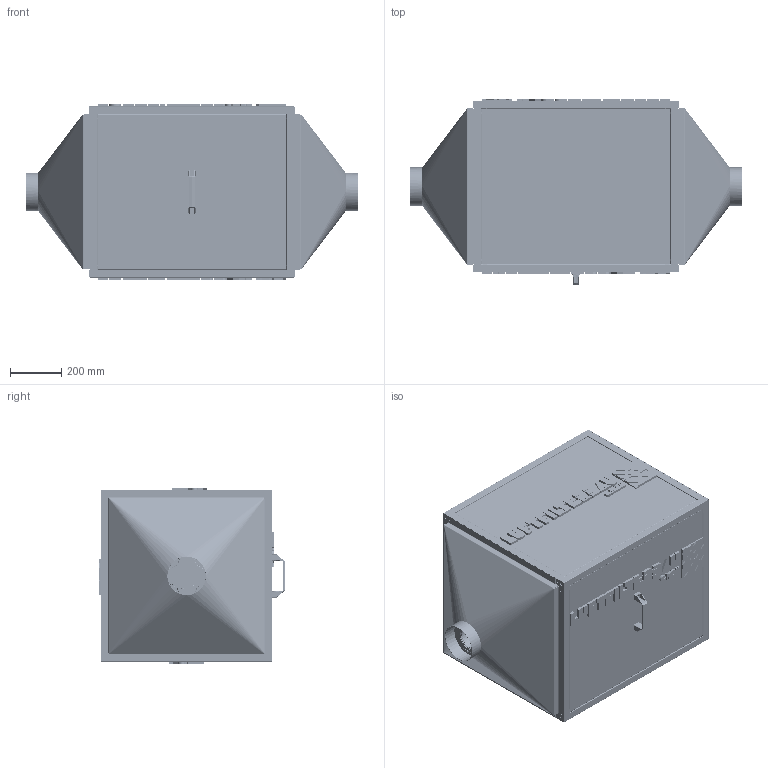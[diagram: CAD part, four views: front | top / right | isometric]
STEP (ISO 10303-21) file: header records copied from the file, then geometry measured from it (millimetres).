
FILE_DESCRIPTION(/* description */ (''),/* implementation_level */ '2;1');
FILE_NAME(/* name */ '\\hs-2000\Benutzer\00 Konstruktion\10_Inventor_Modelle\Inventor\HS-Vario Cat\72-VARIO-CAT-0000022\72-VARIO-CAT-0000022.stp',/* time_stamp */ '2018-08-07T10:45:55+02:00',/* author */ ('ap29'),/* organization */ (''),/* preprocessor_version */ 'ST-DEVELOPER v16.5',/* originating_system */ 'Autodesk Inventor 2017',/* authorisation */ '');
FILE_SCHEMA (('AUTOMOTIVE_DESIGN { 1 0 10303 214 3 1 1 }'));
Products named in the file (1): 72-VARIO-CAT-0000022
Bounding box: 1300.51 x 728 x 686 mm (x, y, z)
Volume: 78932024 mm3; surface area: 26132257.4 mm2
Topology: 1 solids, 51 shells, 6055 faces, 14796 edges, 9053 vertices
Faces by surface type: plane 3065, cylinder 1870, sphere 312, bspline 276, cone 268, torus 264
Full cylindrical faces by diameter (mm): 4 x16, 4.1 x16, 5 x48, 6 x8, 6.2 x2, 7 x32, 9 x48, 12 x8, 13 x2, 15 x64, 88 x16, 88.6 x16, 89 x16, 90 x16, 91.6 x16, 93 x16, 100 x16, 141.4 x16, 141.6 x16, 142 x16, 143 x16, 144 x16, 145 x32, 147 x2, 150 x2
Entity records: 177580 total; most frequent: CARTESIAN_POINT 34482, DIRECTION 29147, ORIENTED_EDGE 27024, EDGE_CURVE 13504, AXIS2_PLACEMENT_3D 10320, VERTEX_POINT 8721, LINE 8507, VECTOR 8507
